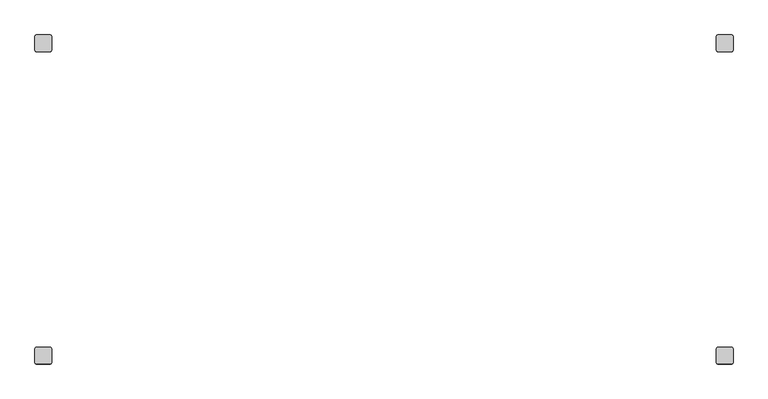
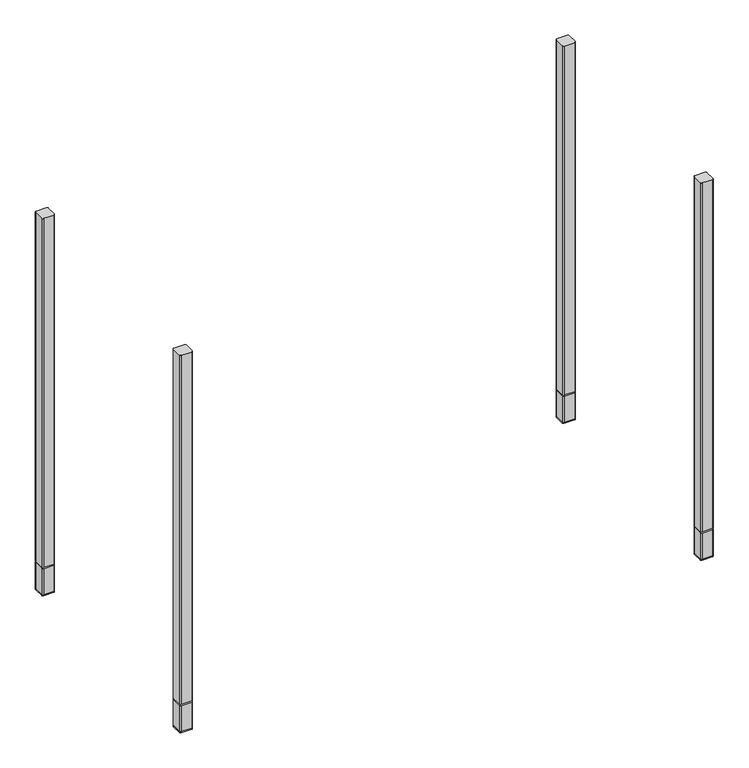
"""IFC4 building model written with IfcOpenShell, lengths in millimetres: furniture geometry, SmithSystem_AM_Storage_Education_Constellate_Stacking_DoubleMidCluster : Upper Cubbies + Lower Cubbies."""

from ifc_helpers import new_model, si_unit, point, frame, frame_2d, origin, origin_with_axes, place, context, project, spatial, polyline, circle_curve, trimmed, segment, composite_curve, outline, extrude, source, transform, mapped, element, save


def furniture_397f0a86(model_context):
    return source(origin(), model_context, "Body", "SweptSolid", [
        extrude(outline(composite_curve([segment(polyline([(-528.32, -223.52), (-508.0, -223.52)]), True, "CONTINUOUS"), segment(trimmed(circle_curve(frame_2d((-508.0, -226.06)), 2.54), [point((-508.0, -223.52))], [point((-505.46, -226.06))], False, "CARTESIAN"), True, "CONTINUOUS"), segment(polyline([(-505.46, -226.06), (-505.46, -246.38)]), True, "CONTINUOUS"), segment(trimmed(circle_curve(frame_2d((-508.0, -246.38)), 2.54), [point((-505.46, -246.38))], [point((-508.0, -248.92))], False, "CARTESIAN"), True, "CONTINUOUS"), segment(polyline([(-508.0, -248.92), (-528.32, -248.92)]), True, "CONTINUOUS"), segment(trimmed(circle_curve(frame_2d((-528.32, -246.38)), 2.54), [point((-528.32, -248.92))], [point((-530.86, -246.38))], False, "CARTESIAN"), True, "CONTINUOUS"), segment(polyline([(-530.86, -246.38), (-530.86, -226.06)]), True, "CONTINUOUS"), segment(trimmed(circle_curve(frame_2d((-528.32, -226.06)), 2.54), [point((-530.86, -226.06))], [point((-528.32, -223.52))], False, "CARTESIAN"), True, "CONTINUOUS")], self_intersect=False)), frame((0.0, 0.0, 59.69), z_axis=(0.0, 0.0, 1.0), x_axis=(1.0, 0.0, 0.0)), (0.0, 0.0, 1.0), 734.06),
        extrude(outline(composite_curve([segment(polyline([(530.86, 248.92), (530.86, 228.6)]), True, "CONTINUOUS"), segment(trimmed(circle_curve(frame_2d((528.32, 228.6)), 2.54), [point((530.86, 228.6))], [point((528.32, 226.06))], False, "CARTESIAN"), True, "CONTINUOUS"), segment(polyline([(528.32, 226.06), (508.0, 226.06)]), True, "CONTINUOUS"), segment(trimmed(circle_curve(frame_2d((508.0, 228.6)), 2.54), [point((508.0, 226.06))], [point((505.46, 228.6))], False, "CARTESIAN"), True, "CONTINUOUS"), segment(polyline([(505.46, 228.6), (505.46, 248.92)]), True, "CONTINUOUS"), segment(trimmed(circle_curve(frame_2d((508.0, 248.92)), 2.54), [point((505.46, 248.92))], [point((508.0, 251.46))], False, "CARTESIAN"), True, "CONTINUOUS"), segment(polyline([(508.0, 251.46), (528.32, 251.46)]), True, "CONTINUOUS"), segment(trimmed(circle_curve(frame_2d((528.32, 248.92)), 2.54), [point((528.32, 251.46))], [point((530.86, 248.92))], False, "CARTESIAN"), True, "CONTINUOUS")], self_intersect=False)), frame((0.0, 0.0, 59.69), z_axis=(0.0, 0.0, 1.0), x_axis=(1.0, 0.0, 0.0)), (0.0, 0.0, 1.0), 734.06),
        extrude(outline(composite_curve([segment(trimmed(circle_curve(frame_2d((528.32, -226.06)), 2.54), [point((528.32, -223.52))], [point((530.86, -226.06))], False, "CARTESIAN"), True, "CONTINUOUS"), segment(polyline([(530.86, -226.06), (530.86, -246.38)]), True, "CONTINUOUS"), segment(trimmed(circle_curve(frame_2d((528.32, -246.38)), 2.54), [point((530.86, -246.38))], [point((528.32, -248.92))], False, "CARTESIAN"), True, "CONTINUOUS"), segment(polyline([(528.32, -248.92), (508.0, -248.92)]), True, "CONTINUOUS"), segment(trimmed(circle_curve(frame_2d((508.0, -246.38)), 2.54), [point((508.0, -248.92))], [point((505.46, -246.38))], False, "CARTESIAN"), True, "CONTINUOUS"), segment(polyline([(505.46, -246.38), (505.46, -226.06)]), True, "CONTINUOUS"), segment(trimmed(circle_curve(frame_2d((508.0, -226.06)), 2.54), [point((505.46, -226.06))], [point((508.0, -223.52))], False, "CARTESIAN"), True, "CONTINUOUS"), segment(polyline([(508.0, -223.52), (528.32, -223.52)]), True, "CONTINUOUS")], self_intersect=False)), frame((0.0, 0.0, 59.69), z_axis=(0.0, 0.0, 1.0), x_axis=(1.0, 0.0, 0.0)), (0.0, 0.0, 1.0), 734.06),
        extrude(outline(composite_curve([segment(trimmed(circle_curve(frame_2d((-528.32, 248.92)), 2.54), [point((-530.86, 248.92))], [point((-528.32, 251.46))], False, "CARTESIAN"), True, "CONTINUOUS"), segment(polyline([(-528.32, 251.46), (-508.0, 251.46)]), True, "CONTINUOUS"), segment(trimmed(circle_curve(frame_2d((-508.0, 248.92)), 2.54), [point((-508.0, 251.46))], [point((-505.46, 248.92))], False, "CARTESIAN"), True, "CONTINUOUS"), segment(polyline([(-505.46, 248.92), (-505.46, 228.6)]), True, "CONTINUOUS"), segment(trimmed(circle_curve(frame_2d((-508.0, 228.6)), 2.54), [point((-505.46, 228.6))], [point((-508.0, 226.06))], False, "CARTESIAN"), True, "CONTINUOUS"), segment(polyline([(-508.0, 226.06), (-528.32, 226.06)]), True, "CONTINUOUS"), segment(trimmed(circle_curve(frame_2d((-528.32, 228.6)), 2.54), [point((-528.32, 226.06))], [point((-530.86, 228.6))], False, "CARTESIAN"), True, "CONTINUOUS"), segment(polyline([(-530.86, 228.6), (-530.86, 248.92)]), True, "CONTINUOUS")], self_intersect=False)), frame((0.0, 0.0, 59.69), z_axis=(0.0, 0.0, 1.0), x_axis=(1.0, 0.0, 0.0)), (0.0, 0.0, 1.0), 734.06),
        extrude(outline(composite_curve([segment(polyline([(-528.32, -223.52), (-508.0, -223.52)]), True, "CONTINUOUS"), segment(trimmed(circle_curve(frame_2d((-508.0, -226.06)), 2.54), [point((-508.0, -223.52))], [point((-505.46, -226.06))], False, "CARTESIAN"), True, "CONTINUOUS"), segment(polyline([(-505.46, -226.06), (-505.46, -246.38)]), True, "CONTINUOUS"), segment(trimmed(circle_curve(frame_2d((-508.0, -246.38)), 2.54), [point((-505.46, -246.38))], [point((-508.0, -248.92))], False, "CARTESIAN"), True, "CONTINUOUS"), segment(polyline([(-508.0, -248.92), (-528.32, -248.92)]), True, "CONTINUOUS"), segment(trimmed(circle_curve(frame_2d((-528.32, -246.38)), 2.54), [point((-528.32, -248.92))], [point((-530.86, -246.38))], False, "CARTESIAN"), True, "CONTINUOUS"), segment(polyline([(-530.86, -246.38), (-530.86, -226.06)]), True, "CONTINUOUS"), segment(trimmed(circle_curve(frame_2d((-528.32, -226.06)), 2.54), [point((-530.86, -226.06))], [point((-528.32, -223.52))], False, "CARTESIAN"), True, "CONTINUOUS")], self_intersect=False)), frame((0.0, 0.0, 2.54), z_axis=(0.0, 0.0, 1.0), x_axis=(1.0, 0.0, 0.0)), (0.0, 0.0, 1.0), 54.61),
        extrude(outline(composite_curve([segment(polyline([(530.86, 248.92), (530.86, 228.6)]), True, "CONTINUOUS"), segment(trimmed(circle_curve(frame_2d((528.32, 228.6)), 2.54), [point((530.86, 228.6))], [point((528.32, 226.06))], False, "CARTESIAN"), True, "CONTINUOUS"), segment(polyline([(528.32, 226.06), (508.0, 226.06)]), True, "CONTINUOUS"), segment(trimmed(circle_curve(frame_2d((508.0, 228.6)), 2.54), [point((508.0, 226.06))], [point((505.46, 228.6))], False, "CARTESIAN"), True, "CONTINUOUS"), segment(polyline([(505.46, 228.6), (505.46, 248.92)]), True, "CONTINUOUS"), segment(trimmed(circle_curve(frame_2d((508.0, 248.92)), 2.54), [point((505.46, 248.92))], [point((508.0, 251.46))], False, "CARTESIAN"), True, "CONTINUOUS"), segment(polyline([(508.0, 251.46), (528.32, 251.46)]), True, "CONTINUOUS"), segment(trimmed(circle_curve(frame_2d((528.32, 248.92)), 2.54), [point((528.32, 251.46))], [point((530.86, 248.92))], False, "CARTESIAN"), True, "CONTINUOUS")], self_intersect=False)), frame((0.0, 0.0, 2.54), z_axis=(0.0, 0.0, 1.0), x_axis=(1.0, 0.0, 0.0)), (0.0, 0.0, 1.0), 54.61),
        extrude(outline(composite_curve([segment(trimmed(circle_curve(frame_2d((528.32, -226.06)), 2.54), [point((528.32, -223.52))], [point((530.86, -226.06))], False, "CARTESIAN"), True, "CONTINUOUS"), segment(polyline([(530.86, -226.06), (530.86, -246.38)]), True, "CONTINUOUS"), segment(trimmed(circle_curve(frame_2d((528.32, -246.38)), 2.54), [point((530.86, -246.38))], [point((528.32, -248.92))], False, "CARTESIAN"), True, "CONTINUOUS"), segment(polyline([(528.32, -248.92), (508.0, -248.92)]), True, "CONTINUOUS"), segment(trimmed(circle_curve(frame_2d((508.0, -246.38)), 2.54), [point((508.0, -248.92))], [point((505.46, -246.38))], False, "CARTESIAN"), True, "CONTINUOUS"), segment(polyline([(505.46, -246.38), (505.46, -226.06)]), True, "CONTINUOUS"), segment(trimmed(circle_curve(frame_2d((508.0, -226.06)), 2.54), [point((505.46, -226.06))], [point((508.0, -223.52))], False, "CARTESIAN"), True, "CONTINUOUS"), segment(polyline([(508.0, -223.52), (528.32, -223.52)]), True, "CONTINUOUS")], self_intersect=False)), frame((0.0, 0.0, 2.54), z_axis=(0.0, 0.0, 1.0), x_axis=(1.0, 0.0, 0.0)), (0.0, 0.0, 1.0), 54.61),
        extrude(outline(composite_curve([segment(trimmed(circle_curve(frame_2d((-528.32, 248.92)), 2.54), [point((-530.86, 248.92))], [point((-528.32, 251.46))], False, "CARTESIAN"), True, "CONTINUOUS"), segment(polyline([(-528.32, 251.46), (-508.0, 251.46)]), True, "CONTINUOUS"), segment(trimmed(circle_curve(frame_2d((-508.0, 248.92)), 2.54), [point((-508.0, 251.46))], [point((-505.46, 248.92))], False, "CARTESIAN"), True, "CONTINUOUS"), segment(polyline([(-505.46, 248.92), (-505.46, 228.6)]), True, "CONTINUOUS"), segment(trimmed(circle_curve(frame_2d((-508.0, 228.6)), 2.54), [point((-505.46, 228.6))], [point((-508.0, 226.06))], False, "CARTESIAN"), True, "CONTINUOUS"), segment(polyline([(-508.0, 226.06), (-528.32, 226.06)]), True, "CONTINUOUS"), segment(trimmed(circle_curve(frame_2d((-528.32, 228.6)), 2.54), [point((-528.32, 226.06))], [point((-530.86, 228.6))], False, "CARTESIAN"), True, "CONTINUOUS"), segment(polyline([(-530.86, 228.6), (-530.86, 248.92)]), True, "CONTINUOUS")], self_intersect=False)), frame((0.0, 0.0, 2.54), z_axis=(0.0, 0.0, 1.0), x_axis=(1.0, 0.0, 0.0)), (0.0, 0.0, 1.0), 54.61),
        extrude(outline(composite_curve([segment(trimmed(circle_curve(frame_2d((-508.0, -226.06)), 2.54), [point((-508.0, -223.52))], [point((-505.46, -226.06))], False, "CARTESIAN"), True, "CONTINUOUS"), segment(polyline([(-505.46, -226.06), (-505.46, -246.38)]), True, "CONTINUOUS"), segment(trimmed(circle_curve(frame_2d((-508.0, -246.38)), 2.54), [point((-505.46, -246.38))], [point((-508.0, -248.92))], False, "CARTESIAN"), True, "CONTINUOUS"), segment(polyline([(-508.0, -248.92), (-528.32, -248.92)]), True, "CONTINUOUS"), segment(trimmed(circle_curve(frame_2d((-528.32, -246.38)), 2.54), [point((-528.32, -248.92))], [point((-530.86, -246.38))], False, "CARTESIAN"), True, "CONTINUOUS"), segment(polyline([(-530.86, -246.38), (-530.86, -226.06)]), True, "CONTINUOUS"), segment(trimmed(circle_curve(frame_2d((-528.32, -226.06)), 2.54), [point((-530.86, -226.06))], [point((-528.32, -223.52))], False, "CARTESIAN"), True, "CONTINUOUS"), segment(polyline([(-528.32, -223.52), (-508.0, -223.52)]), True, "CONTINUOUS")], self_intersect=False)), origin_with_axes(), (0.0, 0.0, 1.0), 2.54),
        extrude(outline(composite_curve([segment(polyline([(508.0, -223.52), (528.32, -223.52)]), True, "CONTINUOUS"), segment(trimmed(circle_curve(frame_2d((528.32, -226.06)), 2.54), [point((528.32, -223.52))], [point((530.86, -226.06))], False, "CARTESIAN"), True, "CONTINUOUS"), segment(polyline([(530.86, -226.06), (530.86, -246.38)]), True, "CONTINUOUS"), segment(trimmed(circle_curve(frame_2d((528.32, -246.38)), 2.54), [point((530.86, -246.38))], [point((528.32, -248.92))], False, "CARTESIAN"), True, "CONTINUOUS"), segment(polyline([(528.32, -248.92), (508.0, -248.92)]), True, "CONTINUOUS"), segment(trimmed(circle_curve(frame_2d((508.0, -246.38)), 2.54), [point((508.0, -248.92))], [point((505.46, -246.38))], False, "CARTESIAN"), True, "CONTINUOUS"), segment(polyline([(505.46, -246.38), (505.46, -226.06)]), True, "CONTINUOUS"), segment(trimmed(circle_curve(frame_2d((508.0, -226.06)), 2.54), [point((505.46, -226.06))], [point((508.0, -223.52))], False, "CARTESIAN"), True, "CONTINUOUS")], self_intersect=False)), origin_with_axes(), (0.0, 0.0, 1.0), 2.54),
        extrude(outline(composite_curve([segment(trimmed(circle_curve(frame_2d((-508.0, 248.92)), 2.54), [point((-508.0, 251.46))], [point((-505.46, 248.92))], False, "CARTESIAN"), True, "CONTINUOUS"), segment(polyline([(-505.46, 248.92), (-505.46, 228.6)]), True, "CONTINUOUS"), segment(trimmed(circle_curve(frame_2d((-508.0, 228.6)), 2.54), [point((-505.46, 228.6))], [point((-508.0, 226.06))], False, "CARTESIAN"), True, "CONTINUOUS"), segment(polyline([(-508.0, 226.06), (-528.32, 226.06)]), True, "CONTINUOUS"), segment(trimmed(circle_curve(frame_2d((-528.32, 228.6)), 2.54), [point((-528.32, 226.06))], [point((-530.86, 228.6))], False, "CARTESIAN"), True, "CONTINUOUS"), segment(polyline([(-530.86, 228.6), (-530.86, 248.92)]), True, "CONTINUOUS"), segment(trimmed(circle_curve(frame_2d((-528.32, 248.92)), 2.54), [point((-530.86, 248.92))], [point((-528.32, 251.46))], False, "CARTESIAN"), True, "CONTINUOUS"), segment(polyline([(-528.32, 251.46), (-508.0, 251.46)]), True, "CONTINUOUS")], self_intersect=False)), origin_with_axes(), (0.0, 0.0, 1.0), 2.54),
        extrude(outline(composite_curve([segment(polyline([(508.0, 251.46), (528.32, 251.46)]), True, "CONTINUOUS"), segment(trimmed(circle_curve(frame_2d((528.32, 248.92)), 2.54), [point((528.32, 251.46))], [point((530.86, 248.92))], False, "CARTESIAN"), True, "CONTINUOUS"), segment(polyline([(530.86, 248.92), (530.86, 228.6)]), True, "CONTINUOUS"), segment(trimmed(circle_curve(frame_2d((528.32, 228.6)), 2.54), [point((530.86, 228.6))], [point((528.32, 226.06))], False, "CARTESIAN"), True, "CONTINUOUS"), segment(polyline([(528.32, 226.06), (508.0, 226.06)]), True, "CONTINUOUS"), segment(trimmed(circle_curve(frame_2d((508.0, 228.6)), 2.54), [point((508.0, 226.06))], [point((505.46, 228.6))], False, "CARTESIAN"), True, "CONTINUOUS"), segment(polyline([(505.46, 228.6), (505.46, 248.92)]), True, "CONTINUOUS"), segment(trimmed(circle_curve(frame_2d((508.0, 248.92)), 2.54), [point((505.46, 248.92))], [point((508.0, 251.46))], False, "CARTESIAN"), True, "CONTINUOUS")], self_intersect=False)), origin_with_axes(), (0.0, 0.0, 1.0), 2.54),
    ])


if __name__ == "__main__":
    model = new_model("IFC4")
    model_context = context("Model", 3, world=origin())
    ifc_project = project(units=[si_unit("LENGTHUNIT", "METRE", prefix="MILLI")], contexts=[model_context])
    site = spatial("IfcSite", under=ifc_project)
    building = spatial("IfcBuilding", under=site)
    placement = place(None, origin())
    furniture_shape = furniture_397f0a86(model_context)
    element("IfcFurniture", 1, ObjectType="SmithSystem_AM_Storage_Education_Constellate_Stacking_DoubleMidCluster : Upper Cubbies + Lower Cubbies", at=placement, inside=building, context=model_context, shape_type="MappedRepresentation", body=[
        mapped(furniture_shape, transform((0.0, 0.0, 0.0), x_axis=(1.0, 0.0, 0.0), y_axis=(0.0, 1.0, 0.0), z_axis=(0.0, 0.0, 1.0))),
    ])
    save(model, "model.ifc")
